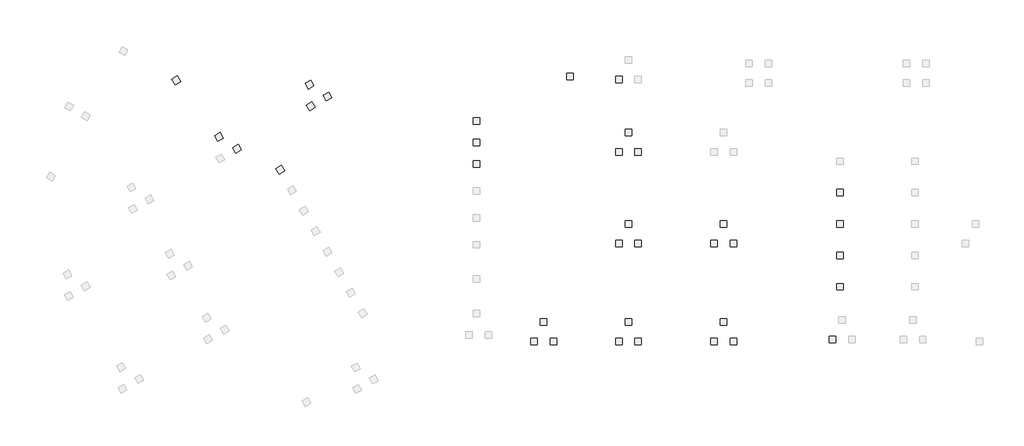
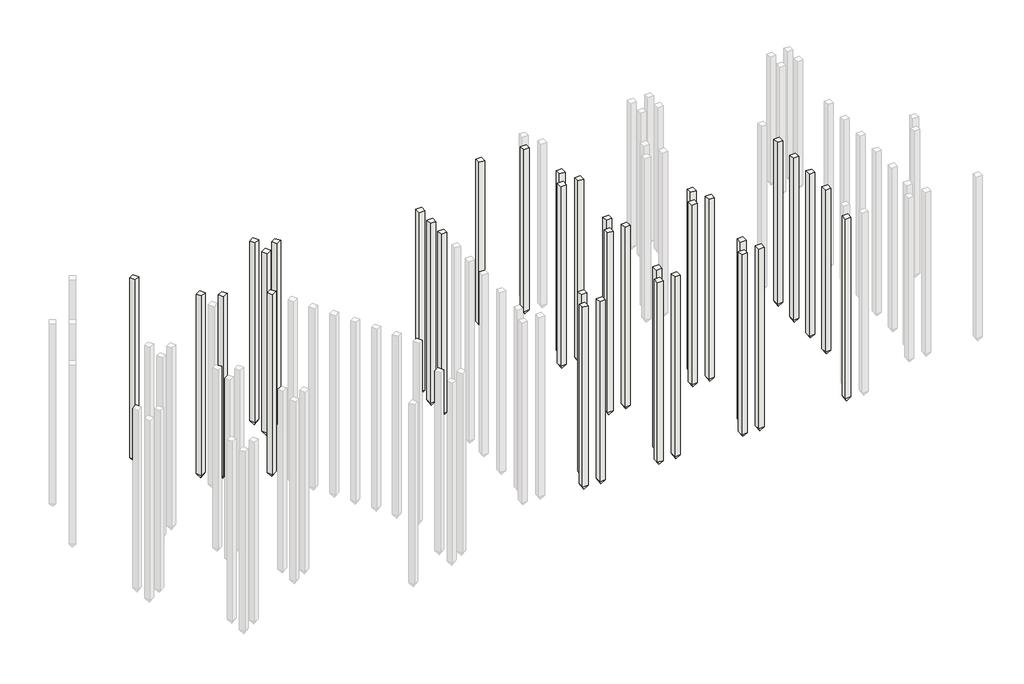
# One storey, part 4 of 6: 35 slabs.
"""IFC4 building model written with IfcOpenShell, lengths in millimetres."""

from ifc_helpers import new_model, si_unit, origin, place, context, project, spatial, faceted_brep, element, save

model = new_model("IFC4")

# Units and contexts
model_context = context("Model", 3, world=origin())
ifc_project = project(units=[si_unit("LENGTHUNIT", "METRE", prefix="MILLI")], contexts=[model_context])

# Site, building, storey
site = spatial("IfcSite", under=ifc_project)
building = spatial("IfcBuilding", under=site)
storey = spatial("IfcBuildingStorey", under=building, Name="КЖм.-1.150 (Верх свай 1)", Elevation=-1150.0)

# Slabs
placement = place(None, origin())
element("IfcSlab", 1, ObjectType="Бетонная свая прямоугольного сечения : C100.30-9", at=placement, inside=storey, context=model_context, shape_type="Brep", body=[
    faceted_brep([(19918.9691379, 26017.7285345, -1150.0), (19659.1615168, 25867.7285345, -1150.0), (19809.1615168, 25607.9209134, -1150.0), (20068.9691379, 25757.9209134, -1150.0), (19918.9691379, 26017.7285345, -1200.0), (19918.9691379, 26017.7285345, -1300.0), (19918.9691379, 26017.7285345, -11150.0), (19659.1615168, 25867.7285345, -11150.0), (19659.1615168, 25867.7285345, -1300.0), (19659.1615168, 25867.7285345, -1200.0), (19809.1615168, 25607.9209134, -11150.0), (19809.1615168, 25607.9209134, -1300.0), (19809.1615168, 25607.9209134, -1200.0), (20068.9691379, 25757.9209134, -11150.0), (20068.9691379, 25757.9209134, -1300.0), (20068.9691379, 25757.9209134, -1200.0), (19864.2411535, 25813.3653065, -11400.0), (19864.6411535, 25812.6724862, -11400.0), (19863.9483332, 25812.2724862, -11400.0), (19863.5483332, 25812.9653065, -11400.0)], [[[0, 1, 2, 3]], [[1, 0, 4, 5, 6, 7, 8, 9]], [[2, 1, 9, 8, 7, 10, 11, 12]], [[3, 2, 12, 11, 10, 13, 14, 15]], [[0, 3, 15, 14, 13, 6, 5, 4]], [[16, 17, 18, 19]], [[17, 16, 6, 13]], [[18, 17, 13, 10]], [[19, 18, 10, 7]], [[16, 19, 7, 6]]]),
])
element("IfcSlab", 2, ObjectType="Бетонная свая прямоугольного сечения : C100.30-9", at=placement, inside=storey, context=model_context, shape_type="Brep", body=[
    faceted_brep([(19079.2108659, 26572.0804491, -1150.0), (18819.4032447, 26422.0804491, -1150.0), (18969.4032447, 26162.272828, -1150.0), (19229.2108659, 26312.272828, -1150.0), (19079.2108659, 26572.0804491, -1200.0), (19079.2108659, 26572.0804491, -1300.0), (19079.2108659, 26572.0804491, -11150.0), (18819.4032447, 26422.0804491, -11150.0), (18819.4032447, 26422.0804491, -1300.0), (18819.4032447, 26422.0804491, -1200.0), (18969.4032447, 26162.272828, -11150.0), (18969.4032447, 26162.272828, -1300.0), (18969.4032447, 26162.272828, -1200.0), (19229.2108659, 26312.272828, -11150.0), (19229.2108659, 26312.272828, -1300.0), (19229.2108659, 26312.272828, -1200.0), (19024.4828815, 26367.7172211, -11400.0), (19024.8828815, 26367.0244007, -11400.0), (19024.1900612, 26366.6244007, -11400.0), (19023.7900612, 26367.3172211, -11400.0)], [[[0, 1, 2, 3]], [[1, 0, 4, 5, 6, 7, 8, 9]], [[2, 1, 9, 8, 7, 10, 11, 12]], [[3, 2, 12, 11, 10, 13, 14, 15]], [[0, 3, 15, 14, 13, 6, 5, 4]], [[16, 17, 18, 19]], [[17, 16, 6, 13]], [[18, 17, 13, 10]], [[19, 18, 10, 7]], [[16, 19, 7, 6]]]),
])
element("IfcSlab", 3, ObjectType="Бетонная свая прямоугольного сечения : C100.30-9", at=placement, inside=storey, context=model_context, shape_type="Brep", body=[
    faceted_brep([(23347.9871986, 27997.8741288, -1150.0), (23088.1795775, 27847.8741288, -1150.0), (23238.1795775, 27588.0665077, -1150.0), (23497.9871986, 27738.0665077, -1150.0), (23347.9871986, 27997.8741288, -1200.0), (23347.9871986, 27997.8741288, -1300.0), (23347.9871986, 27997.8741288, -11150.0), (23088.1795775, 27847.8741288, -11150.0), (23088.1795775, 27847.8741288, -1300.0), (23088.1795775, 27847.8741288, -1200.0), (23238.1795775, 27588.0665077, -11150.0), (23238.1795775, 27588.0665077, -1300.0), (23238.1795775, 27588.0665077, -1200.0), (23497.9871986, 27738.0665077, -11150.0), (23497.9871986, 27738.0665077, -1300.0), (23497.9871986, 27738.0665077, -1200.0), (23293.2592142, 27793.5109008, -11400.0), (23293.6592142, 27792.8180805, -11400.0), (23292.9663939, 27792.4180805, -11400.0), (23292.5663939, 27793.1109008, -11400.0)], [[[0, 1, 2, 3]], [[1, 0, 4, 5, 6, 7, 8, 9]], [[2, 1, 9, 8, 7, 10, 11, 12]], [[3, 2, 12, 11, 10, 13, 14, 15]], [[0, 3, 15, 14, 13, 6, 5, 4]], [[16, 17, 18, 19]], [[17, 16, 6, 13]], [[18, 17, 13, 10]], [[19, 18, 10, 7]], [[16, 19, 7, 6]]]),
])
element("IfcSlab", 4, ObjectType="Бетонная свая прямоугольного сечения : C100.30-9", at=placement, inside=storey, context=model_context, shape_type="Brep", body=[
    faceted_brep([(24127.3720384, 28447.9399812, -1150.0), (23867.5644173, 28297.9399812, -1150.0), (24017.5644173, 28038.1323601, -1150.0), (24277.3720384, 28188.1323601, -1150.0), (24127.3720384, 28447.9399812, -1200.0), (24127.3720384, 28447.9399812, -1300.0), (24127.3720384, 28447.9399812, -11150.0), (23867.5644173, 28297.9399812, -11150.0), (23867.5644173, 28297.9399812, -1300.0), (23867.5644173, 28297.9399812, -1200.0), (24017.5644173, 28038.1323601, -11150.0), (24017.5644173, 28038.1323601, -1300.0), (24017.5644173, 28038.1323601, -1200.0), (24277.3720384, 28188.1323601, -11150.0), (24277.3720384, 28188.1323601, -1300.0), (24277.3720384, 28188.1323601, -1200.0), (24072.6440541, 28243.5767532, -11400.0), (24073.0440541, 28242.8839329, -11400.0), (24072.3512337, 28242.4839329, -11400.0), (24071.9512337, 28243.1767532, -11400.0)], [[[0, 1, 2, 3]], [[1, 0, 4, 5, 6, 7, 8, 9]], [[2, 1, 9, 8, 7, 10, 11, 12]], [[3, 2, 12, 11, 10, 13, 14, 15]], [[0, 3, 15, 14, 13, 6, 5, 4]], [[16, 17, 18, 19]], [[17, 16, 6, 13]], [[18, 17, 13, 10]], [[19, 18, 10, 7]], [[16, 19, 7, 6]]]),
])
element("IfcSlab", 5, ObjectType="Бетонная свая прямоугольного сечения : C100.30-9", at=placement, inside=storey, context=model_context, shape_type="Brep", body=[
    faceted_brep([(23287.6137664, 29002.2918958, -1150.0), (23027.8061452, 28852.2918958, -1150.0), (23177.8061452, 28592.4842746, -1150.0), (23437.6137664, 28742.4842746, -1150.0), (23287.6137664, 29002.2918958, -1200.0), (23287.6137664, 29002.2918958, -1300.0), (23287.6137664, 29002.2918958, -11150.0), (23027.8061452, 28852.2918958, -11150.0), (23027.8061452, 28852.2918958, -1300.0), (23027.8061452, 28852.2918958, -1200.0), (23177.8061452, 28592.4842746, -11150.0), (23177.8061452, 28592.4842746, -1300.0), (23177.8061452, 28592.4842746, -1200.0), (23437.6137664, 28742.4842746, -11150.0), (23437.6137664, 28742.4842746, -1300.0), (23437.6137664, 28742.4842746, -1200.0), (23232.885782, 28797.9286677, -11400.0), (23233.285782, 28797.2358474, -11400.0), (23232.5929617, 28796.8358474, -11400.0), (23232.1929617, 28797.5286677, -11400.0)], [[[0, 1, 2, 3]], [[1, 0, 4, 5, 6, 7, 8, 9]], [[2, 1, 9, 8, 7, 10, 11, 12]], [[3, 2, 12, 11, 10, 13, 14, 15]], [[0, 3, 15, 14, 13, 6, 5, 4]], [[16, 17, 18, 19]], [[17, 16, 6, 13]], [[18, 17, 13, 10]], [[19, 18, 10, 7]], [[16, 19, 7, 6]]]),
])
element("IfcSlab", 6, ObjectType="Бетонная свая прямоугольного сечения : C100.30-9", at=placement, inside=storey, context=model_context, shape_type="Brep", body=[
    faceted_brep([(21926.6133364, 25041.2300496, -1150.0), (21666.8057153, 24891.2300496, -1150.0), (21816.8057153, 24631.4224284, -1150.0), (22076.6133364, 24781.4224284, -1150.0), (21926.6133364, 25041.2300496, -1200.0), (21926.6133364, 25041.2300496, -1300.0), (21926.6133364, 25041.2300496, -11150.0), (21666.8057153, 24891.2300496, -11150.0), (21666.8057153, 24891.2300496, -1300.0), (21666.8057153, 24891.2300496, -1200.0), (21816.8057153, 24631.4224284, -11150.0), (21816.8057153, 24631.4224284, -1300.0), (21816.8057153, 24631.4224284, -1200.0), (22076.6133364, 24781.4224284, -11150.0), (22076.6133364, 24781.4224284, -1300.0), (22076.6133364, 24781.4224284, -1200.0), (21871.8853521, 24836.8668215, -11400.0), (21872.2853521, 24836.1740012, -11400.0), (21871.5925318, 24835.7740012, -11400.0), (21871.1925318, 24836.4668215, -11400.0)], [[[0, 1, 2, 3]], [[1, 0, 4, 5, 6, 7, 8, 9]], [[2, 1, 9, 8, 7, 10, 11, 12]], [[3, 2, 12, 11, 10, 13, 14, 15]], [[0, 3, 15, 14, 13, 6, 5, 4]], [[16, 17, 18, 19]], [[17, 16, 6, 13]], [[18, 17, 13, 10]], [[19, 18, 10, 7]], [[16, 19, 7, 6]]]),
])
element("IfcSlab", 7, ObjectType="Бетонная свая прямоугольного сечения : C100.30-9", at=placement, inside=storey, context=model_context, shape_type="Brep", body=[
    faceted_brep([(31158.0495692, 27249.4354275, -1150.0), (30858.0495692, 27249.4354275, -1150.0), (30858.0495692, 26949.4354275, -1150.0), (31158.0495692, 26949.4354275, -1150.0), (31158.0495692, 27249.4354275, -1200.0), (31158.0495692, 27249.4354275, -1300.0), (31158.0495692, 27249.4354275, -11150.0), (30858.0495692, 27249.4354275, -11150.0), (30858.0495692, 27249.4354275, -1300.0), (30858.0495692, 27249.4354275, -1200.0), (30858.0495692, 26949.4354275, -11150.0), (30858.0495692, 26949.4354275, -1300.0), (30858.0495692, 26949.4354275, -1200.0), (31158.0495692, 26949.4354275, -11150.0), (31158.0495692, 26949.4354275, -1300.0), (31158.0495692, 26949.4354275, -1200.0), (31008.4721304, 27099.8156726, -11400.0), (31008.4721304, 27099.0156726, -11400.0), (31007.6721304, 27099.0156726, -11400.0), (31007.6721304, 27099.8156726, -11400.0)], [[[0, 1, 2, 3]], [[1, 0, 4, 5, 6, 7, 8, 9]], [[2, 1, 9, 8, 7, 10, 11, 12]], [[3, 2, 12, 11, 10, 13, 14, 15]], [[0, 3, 15, 14, 13, 6, 5, 4]], [[16, 17, 18, 19]], [[17, 16, 6, 13]], [[18, 17, 13, 10]], [[19, 18, 10, 7]], [[16, 19, 7, 6]]]),
])
element("IfcSlab", 8, ObjectType="Бетонная свая прямоугольного сечения : C100.30-9", at=placement, inside=storey, context=model_context, shape_type="Brep", body=[
    faceted_brep([(37773.0495055, 25814.4704078, -1150.0), (37473.0495055, 25814.4704078, -1150.0), (37473.0495055, 25514.4704078, -1150.0), (37773.0495055, 25514.4704078, -1150.0), (37773.0495055, 25814.4704078, -1200.0), (37773.0495055, 25814.4704078, -1300.0), (37773.0495055, 25814.4704078, -11150.0), (37473.0495055, 25814.4704078, -11150.0), (37473.0495055, 25814.4704078, -1300.0), (37473.0495055, 25814.4704078, -1200.0), (37473.0495055, 25514.4704078, -11150.0), (37473.0495055, 25514.4704078, -1300.0), (37473.0495055, 25514.4704078, -1200.0), (37773.0495055, 25514.4704078, -11150.0), (37773.0495055, 25514.4704078, -1300.0), (37773.0495055, 25514.4704078, -1200.0), (37623.4720668, 25664.8506529, -11400.0), (37623.4720668, 25664.0506529, -11400.0), (37622.6720668, 25664.0506529, -11400.0), (37622.6720668, 25664.8506529, -11400.0)], [[[0, 1, 2, 3]], [[1, 0, 4, 5, 6, 7, 8, 9]], [[2, 1, 9, 8, 7, 10, 11, 12]], [[3, 2, 12, 11, 10, 13, 14, 15]], [[0, 3, 15, 14, 13, 6, 5, 4]], [[16, 17, 18, 19]], [[17, 16, 6, 13]], [[18, 17, 13, 10]], [[19, 18, 10, 7]], [[16, 19, 7, 6]]]),
])
element("IfcSlab", 9, ObjectType="Бетонная свая прямоугольного сечения : C100.30-9", at=placement, inside=storey, context=model_context, shape_type="Brep", body=[
    faceted_brep([(38223.0754774, 26714.4704051, -1150.0), (37923.0754774, 26714.4704051, -1150.0), (37923.0754774, 26414.4704051, -1150.0), (38223.0754774, 26414.4704051, -1150.0), (38223.0754774, 26714.4704051, -1200.0), (38223.0754774, 26714.4704051, -1300.0), (38223.0754774, 26714.4704051, -11150.0), (37923.0754774, 26714.4704051, -11150.0), (37923.0754774, 26714.4704051, -1300.0), (37923.0754774, 26714.4704051, -1200.0), (37923.0754774, 26414.4704051, -11150.0), (37923.0754774, 26414.4704051, -1300.0), (37923.0754774, 26414.4704051, -1200.0), (38223.0754774, 26414.4704051, -11150.0), (38223.0754774, 26414.4704051, -1300.0), (38223.0754774, 26414.4704051, -1200.0), (38073.4980387, 26564.8506502, -11400.0), (38073.4980387, 26564.0506502, -11400.0), (38072.6980387, 26564.0506502, -11400.0), (38072.6980387, 26564.8506502, -11400.0)], [[[0, 1, 2, 3]], [[1, 0, 4, 5, 6, 7, 8, 9]], [[2, 1, 9, 8, 7, 10, 11, 12]], [[3, 2, 12, 11, 10, 13, 14, 15]], [[0, 3, 15, 14, 13, 6, 5, 4]], [[16, 17, 18, 19]], [[17, 16, 6, 13]], [[18, 17, 13, 10]], [[19, 18, 10, 7]], [[16, 19, 7, 6]]]),
])
element("IfcSlab", 10, ObjectType="Бетонная свая прямоугольного сечения : C100.30-9", at=placement, inside=storey, context=model_context, shape_type="Brep", body=[
    faceted_brep([(38373.0012207, 25814.4703164, -1150.0), (38373.0011292, 25514.4703164, -1150.0), (38673.0011292, 25514.4702249, -1150.0), (38673.0012207, 25814.4702249, -1150.0), (38673.0012207, 25814.4702249, -1200.0), (38673.0012207, 25814.4702249, -1300.0), (38673.0012207, 25814.4702249, -11150.0), (38373.0012207, 25814.4703164, -11150.0), (38373.0012207, 25814.4703164, -1300.0), (38373.0012207, 25814.4703164, -1200.0), (38673.0011292, 25514.4702249, -1200.0), (38673.0011292, 25514.4702249, -1300.0), (38673.0011292, 25514.4702249, -11150.0), (38373.0011292, 25514.4703164, -1200.0), (38373.0011292, 25514.4703164, -1300.0), (38373.0011292, 25514.4703164, -11150.0), (38522.5786138, 25664.8505159, -11400.0), (38523.3786138, 25664.8505156, -11400.0), (38523.3786136, 25664.0505156, -11400.0), (38522.5786136, 25664.0505159, -11400.0)], [[[0, 1, 2, 3]], [[3, 4, 5, 6, 7, 8, 9, 0]], [[2, 10, 11, 12, 6, 5, 4, 3]], [[1, 13, 14, 15, 12, 11, 10, 2]], [[0, 9, 8, 7, 15, 14, 13, 1]], [[16, 17, 18, 19]], [[19, 15, 7, 16]], [[18, 12, 15, 19]], [[17, 6, 12, 18]], [[16, 7, 6, 17]]]),
])
element("IfcSlab", 11, ObjectType="Бетонная свая прямоугольного сечения : C100.30-9", at=placement, inside=storey, context=model_context, shape_type="Brep", body=[
    faceted_brep([(37773.0495055, 21559.4703544, -1150.0), (37473.0495055, 21559.4703544, -1150.0), (37473.0495055, 21259.4703544, -1150.0), (37773.0495055, 21259.4703544, -1150.0), (37773.0495055, 21559.4703544, -1200.0), (37773.0495055, 21559.4703544, -1300.0), (37773.0495055, 21559.4703544, -11150.0), (37473.0495055, 21559.4703544, -11150.0), (37473.0495055, 21559.4703544, -1300.0), (37473.0495055, 21559.4703544, -1200.0), (37473.0495055, 21259.4703544, -11150.0), (37473.0495055, 21259.4703544, -1300.0), (37473.0495055, 21259.4703544, -1200.0), (37773.0495055, 21259.4703544, -11150.0), (37773.0495055, 21259.4703544, -1300.0), (37773.0495055, 21259.4703544, -1200.0), (37623.4720668, 21409.8505995, -11400.0), (37623.4720668, 21409.0505995, -11400.0), (37622.6720668, 21409.0505995, -11400.0), (37622.6720668, 21409.8505995, -11400.0)], [[[0, 1, 2, 3]], [[1, 0, 4, 5, 6, 7, 8, 9]], [[2, 1, 9, 8, 7, 10, 11, 12]], [[3, 2, 12, 11, 10, 13, 14, 15]], [[0, 3, 15, 14, 13, 6, 5, 4]], [[16, 17, 18, 19]], [[17, 16, 6, 13]], [[18, 17, 13, 10]], [[19, 18, 10, 7]], [[16, 19, 7, 6]]]),
])
element("IfcSlab", 12, ObjectType="Бетонная свая прямоугольного сечения : C100.30-9", at=placement, inside=storey, context=model_context, shape_type="Brep", body=[
    faceted_brep([(38223.0754774, 22459.4703517, -1150.0), (37923.0754774, 22459.4703517, -1150.0), (37923.0754774, 22159.4703517, -1150.0), (38223.0754774, 22159.4703517, -1150.0), (38223.0754774, 22459.4703517, -1200.0), (38223.0754774, 22459.4703517, -1300.0), (38223.0754774, 22459.4703517, -11150.0), (37923.0754774, 22459.4703517, -11150.0), (37923.0754774, 22459.4703517, -1300.0), (37923.0754774, 22459.4703517, -1200.0), (37923.0754774, 22159.4703517, -11150.0), (37923.0754774, 22159.4703517, -1300.0), (37923.0754774, 22159.4703517, -1200.0), (38223.0754774, 22159.4703517, -11150.0), (38223.0754774, 22159.4703517, -1300.0), (38223.0754774, 22159.4703517, -1200.0), (38073.4980387, 22309.8505968, -11400.0), (38073.4980387, 22309.0505968, -11400.0), (38072.6980387, 22309.0505968, -11400.0), (38072.6980387, 22309.8505968, -11400.0)], [[[0, 1, 2, 3]], [[1, 0, 4, 5, 6, 7, 8, 9]], [[2, 1, 9, 8, 7, 10, 11, 12]], [[3, 2, 12, 11, 10, 13, 14, 15]], [[0, 3, 15, 14, 13, 6, 5, 4]], [[16, 17, 18, 19]], [[17, 16, 6, 13]], [[18, 17, 13, 10]], [[19, 18, 10, 7]], [[16, 19, 7, 6]]]),
])
element("IfcSlab", 13, ObjectType="Бетонная свая прямоугольного сечения : C100.30-9", at=placement, inside=storey, context=model_context, shape_type="Brep", body=[
    faceted_brep([(38373.0012207, 21559.4702629, -1150.0), (38373.0011292, 21259.4702629, -1150.0), (38673.0011292, 21259.4701715, -1150.0), (38673.0012207, 21559.4701715, -1150.0), (38673.0012207, 21559.4701715, -1200.0), (38673.0012207, 21559.4701715, -1300.0), (38673.0012207, 21559.4701715, -11150.0), (38373.0012207, 21559.4702629, -11150.0), (38373.0012207, 21559.4702629, -1300.0), (38373.0012207, 21559.4702629, -1200.0), (38673.0011292, 21259.4701715, -1200.0), (38673.0011292, 21259.4701715, -1300.0), (38673.0011292, 21259.4701715, -11150.0), (38373.0011292, 21259.4702629, -1200.0), (38373.0011292, 21259.4702629, -1300.0), (38373.0011292, 21259.4702629, -11150.0), (38522.5786138, 21409.8504624, -11400.0), (38523.3786138, 21409.8504622, -11400.0), (38523.3786136, 21409.0504622, -11400.0), (38522.5786136, 21409.0504624, -11400.0)], [[[0, 1, 2, 3]], [[3, 4, 5, 6, 7, 8, 9, 0]], [[2, 10, 11, 12, 6, 5, 4, 3]], [[1, 13, 14, 15, 12, 11, 10, 2]], [[0, 9, 8, 7, 15, 14, 13, 1]], [[16, 17, 18, 19]], [[19, 15, 7, 16]], [[18, 12, 15, 19]], [[17, 6, 12, 18]], [[16, 7, 6, 17]]]),
])
element("IfcSlab", 14, ObjectType="Бетонная свая прямоугольного сечения : C100.30-9", at=placement, inside=storey, context=model_context, shape_type="Brep", body=[
    faceted_brep([(42203.0498996, 21559.4703544, -1150.0), (41903.0498996, 21559.4703544, -1150.0), (41903.0498996, 21259.4703544, -1150.0), (42203.0498996, 21259.4703544, -1150.0), (42203.0498996, 21559.4703544, -1200.0), (42203.0498996, 21559.4703544, -1300.0), (42203.0498996, 21559.4703544, -11150.0), (41903.0498996, 21559.4703544, -11150.0), (41903.0498996, 21559.4703544, -1300.0), (41903.0498996, 21559.4703544, -1200.0), (41903.0498996, 21259.4703544, -11150.0), (41903.0498996, 21259.4703544, -1300.0), (41903.0498996, 21259.4703544, -1200.0), (42203.0498996, 21259.4703544, -11150.0), (42203.0498996, 21259.4703544, -1300.0), (42203.0498996, 21259.4703544, -1200.0), (42053.4724609, 21409.8505995, -11400.0), (42053.4724609, 21409.0505995, -11400.0), (42052.6724609, 21409.0505995, -11400.0), (42052.6724609, 21409.8505995, -11400.0)], [[[0, 1, 2, 3]], [[1, 0, 4, 5, 6, 7, 8, 9]], [[2, 1, 9, 8, 7, 10, 11, 12]], [[3, 2, 12, 11, 10, 13, 14, 15]], [[0, 3, 15, 14, 13, 6, 5, 4]], [[16, 17, 18, 19]], [[17, 16, 6, 13]], [[18, 17, 13, 10]], [[19, 18, 10, 7]], [[16, 19, 7, 6]]]),
])
element("IfcSlab", 15, ObjectType="Бетонная свая прямоугольного сечения : C100.30-9", at=placement, inside=storey, context=model_context, shape_type="Brep", body=[
    faceted_brep([(42653.0758715, 22459.4703517, -1150.0), (42353.0758715, 22459.4703517, -1150.0), (42353.0758715, 22159.4703517, -1150.0), (42653.0758715, 22159.4703517, -1150.0), (42653.0758715, 22459.4703517, -1200.0), (42653.0758715, 22459.4703517, -1300.0), (42653.0758715, 22459.4703517, -11150.0), (42353.0758715, 22459.4703517, -11150.0), (42353.0758715, 22459.4703517, -1300.0), (42353.0758715, 22459.4703517, -1200.0), (42353.0758715, 22159.4703517, -11150.0), (42353.0758715, 22159.4703517, -1300.0), (42353.0758715, 22159.4703517, -1200.0), (42653.0758715, 22159.4703517, -11150.0), (42653.0758715, 22159.4703517, -1300.0), (42653.0758715, 22159.4703517, -1200.0), (42503.4984328, 22309.8505968, -11400.0), (42503.4984328, 22309.0505968, -11400.0), (42502.6984328, 22309.0505968, -11400.0), (42502.6984328, 22309.8505968, -11400.0)], [[[0, 1, 2, 3]], [[1, 0, 4, 5, 6, 7, 8, 9]], [[2, 1, 9, 8, 7, 10, 11, 12]], [[3, 2, 12, 11, 10, 13, 14, 15]], [[0, 3, 15, 14, 13, 6, 5, 4]], [[16, 17, 18, 19]], [[17, 16, 6, 13]], [[18, 17, 13, 10]], [[19, 18, 10, 7]], [[16, 19, 7, 6]]]),
])
element("IfcSlab", 16, ObjectType="Бетонная свая прямоугольного сечения : C100.30-9", at=placement, inside=storey, context=model_context, shape_type="Brep", body=[
    faceted_brep([(42803.0016148, 21559.4702629, -1150.0), (42803.0015233, 21259.4702629, -1150.0), (43103.0015233, 21259.4701715, -1150.0), (43103.0016148, 21559.4701715, -1150.0), (43103.0016148, 21559.4701715, -1200.0), (43103.0016148, 21559.4701715, -1300.0), (43103.0016148, 21559.4701715, -11150.0), (42803.0016148, 21559.4702629, -11150.0), (42803.0016148, 21559.4702629, -1300.0), (42803.0016148, 21559.4702629, -1200.0), (43103.0015233, 21259.4701715, -1200.0), (43103.0015233, 21259.4701715, -1300.0), (43103.0015233, 21259.4701715, -11150.0), (42803.0015233, 21259.4702629, -1200.0), (42803.0015233, 21259.4702629, -1300.0), (42803.0015233, 21259.4702629, -11150.0), (42952.5790079, 21409.8504624, -11400.0), (42953.3790079, 21409.8504622, -11400.0), (42953.3790077, 21409.0504622, -11400.0), (42952.5790077, 21409.0504624, -11400.0)], [[[0, 1, 2, 3]], [[3, 4, 5, 6, 7, 8, 9, 0]], [[2, 10, 11, 12, 6, 5, 4, 3]], [[1, 13, 14, 15, 12, 11, 10, 2]], [[0, 9, 8, 7, 15, 14, 13, 1]], [[16, 17, 18, 19]], [[19, 15, 7, 16]], [[18, 12, 15, 19]], [[17, 6, 12, 18]], [[16, 7, 6, 17]]]),
])
element("IfcSlab", 17, ObjectType="Бетонная свая прямоугольного сечения : C100.30-9", at=placement, inside=storey, context=model_context, shape_type="Brep", body=[
    faceted_brep([(47713.0501424, 17099.4703544, -1150.0), (47413.0501424, 17099.4703544, -1150.0), (47413.0501424, 16799.4703544, -1150.0), (47713.0501424, 16799.4703544, -1150.0), (47713.0501424, 17099.4703544, -1200.0), (47713.0501424, 17099.4703544, -1300.0), (47713.0501424, 17099.4703544, -11150.0), (47413.0501424, 17099.4703544, -11150.0), (47413.0501424, 17099.4703544, -1300.0), (47413.0501424, 17099.4703544, -1200.0), (47413.0501424, 16799.4703544, -11150.0), (47413.0501424, 16799.4703544, -1300.0), (47413.0501424, 16799.4703544, -1200.0), (47713.0501424, 16799.4703544, -11150.0), (47713.0501424, 16799.4703544, -1300.0), (47713.0501424, 16799.4703544, -1200.0), (47563.4727037, 16949.8505995, -11400.0), (47563.4727037, 16949.0505995, -11400.0), (47562.6727037, 16949.0505995, -11400.0), (47562.6727037, 16949.8505995, -11400.0)], [[[0, 1, 2, 3]], [[1, 0, 4, 5, 6, 7, 8, 9]], [[2, 1, 9, 8, 7, 10, 11, 12]], [[3, 2, 12, 11, 10, 13, 14, 15]], [[0, 3, 15, 14, 13, 6, 5, 4]], [[16, 17, 18, 19]], [[17, 16, 6, 13]], [[18, 17, 13, 10]], [[19, 18, 10, 7]], [[16, 19, 7, 6]]]),
])
element("IfcSlab", 18, ObjectType="Бетонная свая прямоугольного сечения : C100.30-9", at=placement, inside=storey, context=model_context, shape_type="Brep", body=[
    faceted_brep([(42203.0498996, 16999.4703544, -1150.0), (41903.0498996, 16999.4703544, -1150.0), (41903.0498996, 16699.4703544, -1150.0), (42203.0498996, 16699.4703544, -1150.0), (42203.0498996, 16999.4703544, -1200.0), (42203.0498996, 16999.4703544, -1300.0), (42203.0498996, 16999.4703544, -11150.0), (41903.0498996, 16999.4703544, -11150.0), (41903.0498996, 16999.4703544, -1300.0), (41903.0498996, 16999.4703544, -1200.0), (41903.0498996, 16699.4703544, -11150.0), (41903.0498996, 16699.4703544, -1300.0), (41903.0498996, 16699.4703544, -1200.0), (42203.0498996, 16699.4703544, -11150.0), (42203.0498996, 16699.4703544, -1300.0), (42203.0498996, 16699.4703544, -1200.0), (42053.4724609, 16849.8505995, -11400.0), (42053.4724609, 16849.0505995, -11400.0), (42052.6724609, 16849.0505995, -11400.0), (42052.6724609, 16849.8505995, -11400.0)], [[[0, 1, 2, 3]], [[1, 0, 4, 5, 6, 7, 8, 9]], [[2, 1, 9, 8, 7, 10, 11, 12]], [[3, 2, 12, 11, 10, 13, 14, 15]], [[0, 3, 15, 14, 13, 6, 5, 4]], [[16, 17, 18, 19]], [[17, 16, 6, 13]], [[18, 17, 13, 10]], [[19, 18, 10, 7]], [[16, 19, 7, 6]]]),
])
element("IfcSlab", 19, ObjectType="Бетонная свая прямоугольного сечения : C100.30-9", at=placement, inside=storey, context=model_context, shape_type="Brep", body=[
    faceted_brep([(42653.0758715, 17899.4703517, -1150.0), (42353.0758715, 17899.4703517, -1150.0), (42353.0758715, 17599.4703517, -1150.0), (42653.0758715, 17599.4703517, -1150.0), (42653.0758715, 17899.4703517, -1200.0), (42653.0758715, 17899.4703517, -1300.0), (42653.0758715, 17899.4703517, -11150.0), (42353.0758715, 17899.4703517, -11150.0), (42353.0758715, 17899.4703517, -1300.0), (42353.0758715, 17899.4703517, -1200.0), (42353.0758715, 17599.4703517, -11150.0), (42353.0758715, 17599.4703517, -1300.0), (42353.0758715, 17599.4703517, -1200.0), (42653.0758715, 17599.4703517, -11150.0), (42653.0758715, 17599.4703517, -1300.0), (42653.0758715, 17599.4703517, -1200.0), (42503.4984328, 17749.8505968, -11400.0), (42503.4984328, 17749.0505968, -11400.0), (42502.6984328, 17749.0505968, -11400.0), (42502.6984328, 17749.8505968, -11400.0)], [[[0, 1, 2, 3]], [[1, 0, 4, 5, 6, 7, 8, 9]], [[2, 1, 9, 8, 7, 10, 11, 12]], [[3, 2, 12, 11, 10, 13, 14, 15]], [[0, 3, 15, 14, 13, 6, 5, 4]], [[16, 17, 18, 19]], [[17, 16, 6, 13]], [[18, 17, 13, 10]], [[19, 18, 10, 7]], [[16, 19, 7, 6]]]),
])
element("IfcSlab", 20, ObjectType="Бетонная свая прямоугольного сечения : C100.30-9", at=placement, inside=storey, context=model_context, shape_type="Brep", body=[
    faceted_brep([(42803.0016148, 16999.4702629, -1150.0), (42803.0015233, 16699.4702629, -1150.0), (43103.0015233, 16699.4701715, -1150.0), (43103.0016148, 16999.4701715, -1150.0), (43103.0016148, 16999.4701715, -1200.0), (43103.0016148, 16999.4701715, -1300.0), (43103.0016148, 16999.4701715, -11150.0), (42803.0016148, 16999.4702629, -11150.0), (42803.0016148, 16999.4702629, -1300.0), (42803.0016148, 16999.4702629, -1200.0), (43103.0015233, 16699.4701715, -1200.0), (43103.0015233, 16699.4701715, -1300.0), (43103.0015233, 16699.4701715, -11150.0), (42803.0015233, 16699.4702629, -1200.0), (42803.0015233, 16699.4702629, -1300.0), (42803.0015233, 16699.4702629, -11150.0), (42952.5790079, 16849.8504624, -11400.0), (42953.3790079, 16849.8504622, -11400.0), (42953.3790077, 16849.0504622, -11400.0), (42952.5790077, 16849.0504624, -11400.0)], [[[0, 1, 2, 3]], [[3, 4, 5, 6, 7, 8, 9, 0]], [[2, 10, 11, 12, 6, 5, 4, 3]], [[1, 13, 14, 15, 12, 11, 10, 2]], [[0, 9, 8, 7, 15, 14, 13, 1]], [[16, 17, 18, 19]], [[19, 15, 7, 16]], [[18, 12, 15, 19]], [[17, 6, 12, 18]], [[16, 7, 6, 17]]]),
])
element("IfcSlab", 21, ObjectType="Бетонная свая прямоугольного сечения : C100.30-9", at=placement, inside=storey, context=model_context, shape_type="Brep", body=[
    faceted_brep([(37773.0495055, 16999.4703544, -1150.0), (37473.0495055, 16999.4703544, -1150.0), (37473.0495055, 16699.4703544, -1150.0), (37773.0495055, 16699.4703544, -1150.0), (37773.0495055, 16999.4703544, -1200.0), (37773.0495055, 16999.4703544, -1300.0), (37773.0495055, 16999.4703544, -11150.0), (37473.0495055, 16999.4703544, -11150.0), (37473.0495055, 16999.4703544, -1300.0), (37473.0495055, 16999.4703544, -1200.0), (37473.0495055, 16699.4703544, -11150.0), (37473.0495055, 16699.4703544, -1300.0), (37473.0495055, 16699.4703544, -1200.0), (37773.0495055, 16699.4703544, -11150.0), (37773.0495055, 16699.4703544, -1300.0), (37773.0495055, 16699.4703544, -1200.0), (37623.4720668, 16849.8505995, -11400.0), (37623.4720668, 16849.0505995, -11400.0), (37622.6720668, 16849.0505995, -11400.0), (37622.6720668, 16849.8505995, -11400.0)], [[[0, 1, 2, 3]], [[1, 0, 4, 5, 6, 7, 8, 9]], [[2, 1, 9, 8, 7, 10, 11, 12]], [[3, 2, 12, 11, 10, 13, 14, 15]], [[0, 3, 15, 14, 13, 6, 5, 4]], [[16, 17, 18, 19]], [[17, 16, 6, 13]], [[18, 17, 13, 10]], [[19, 18, 10, 7]], [[16, 19, 7, 6]]]),
])
element("IfcSlab", 22, ObjectType="Бетонная свая прямоугольного сечения : C100.30-9", at=placement, inside=storey, context=model_context, shape_type="Brep", body=[
    faceted_brep([(38223.0754774, 17899.4703517, -1150.0), (37923.0754774, 17899.4703517, -1150.0), (37923.0754774, 17599.4703517, -1150.0), (38223.0754774, 17599.4703517, -1150.0), (38223.0754774, 17899.4703517, -1200.0), (38223.0754774, 17899.4703517, -1300.0), (38223.0754774, 17899.4703517, -11150.0), (37923.0754774, 17899.4703517, -11150.0), (37923.0754774, 17899.4703517, -1300.0), (37923.0754774, 17899.4703517, -1200.0), (37923.0754774, 17599.4703517, -11150.0), (37923.0754774, 17599.4703517, -1300.0), (37923.0754774, 17599.4703517, -1200.0), (38223.0754774, 17599.4703517, -11150.0), (38223.0754774, 17599.4703517, -1300.0), (38223.0754774, 17599.4703517, -1200.0), (38073.4980387, 17749.8505968, -11400.0), (38073.4980387, 17749.0505968, -11400.0), (38072.6980387, 17749.0505968, -11400.0), (38072.6980387, 17749.8505968, -11400.0)], [[[0, 1, 2, 3]], [[1, 0, 4, 5, 6, 7, 8, 9]], [[2, 1, 9, 8, 7, 10, 11, 12]], [[3, 2, 12, 11, 10, 13, 14, 15]], [[0, 3, 15, 14, 13, 6, 5, 4]], [[16, 17, 18, 19]], [[17, 16, 6, 13]], [[18, 17, 13, 10]], [[19, 18, 10, 7]], [[16, 19, 7, 6]]]),
])
element("IfcSlab", 23, ObjectType="Бетонная свая прямоугольного сечения : C100.30-9", at=placement, inside=storey, context=model_context, shape_type="Brep", body=[
    faceted_brep([(38373.0012207, 16999.4702629, -1150.0), (38373.0011292, 16699.4702629, -1150.0), (38673.0011292, 16699.4701715, -1150.0), (38673.0012207, 16999.4701715, -1150.0), (38673.0012207, 16999.4701715, -1200.0), (38673.0012207, 16999.4701715, -1300.0), (38673.0012207, 16999.4701715, -11150.0), (38373.0012207, 16999.4702629, -11150.0), (38373.0012207, 16999.4702629, -1300.0), (38373.0012207, 16999.4702629, -1200.0), (38673.0011292, 16699.4701715, -1200.0), (38673.0011292, 16699.4701715, -1300.0), (38673.0011292, 16699.4701715, -11150.0), (38373.0011292, 16699.4702629, -1200.0), (38373.0011292, 16699.4702629, -1300.0), (38373.0011292, 16699.4702629, -11150.0), (38522.5786138, 16849.8504624, -11400.0), (38523.3786138, 16849.8504622, -11400.0), (38523.3786136, 16849.0504622, -11400.0), (38522.5786136, 16849.0504624, -11400.0)], [[[0, 1, 2, 3]], [[3, 4, 5, 6, 7, 8, 9, 0]], [[2, 10, 11, 12, 6, 5, 4, 3]], [[1, 13, 14, 15, 12, 11, 10, 2]], [[0, 9, 8, 7, 15, 14, 13, 1]], [[16, 17, 18, 19]], [[19, 15, 7, 16]], [[18, 12, 15, 19]], [[17, 6, 12, 18]], [[16, 7, 6, 17]]]),
])
element("IfcSlab", 24, ObjectType="Бетонная свая прямоугольного сечения : C100.30-9", at=placement, inside=storey, context=model_context, shape_type="Brep", body=[
    faceted_brep([(33828.1724148, 16999.5144057, -1150.0), (33528.1724148, 16999.5144057, -1150.0), (33528.1724148, 16699.5144057, -1150.0), (33828.1724148, 16699.5144057, -1150.0), (33828.1724148, 16999.5144057, -1200.0), (33828.1724148, 16999.5144057, -1300.0), (33828.1724148, 16999.5144057, -11150.0), (33528.1724148, 16999.5144057, -11150.0), (33528.1724148, 16999.5144057, -1300.0), (33528.1724148, 16999.5144057, -1200.0), (33528.1724148, 16699.5144057, -11150.0), (33528.1724148, 16699.5144057, -1300.0), (33528.1724148, 16699.5144057, -1200.0), (33828.1724148, 16699.5144057, -11150.0), (33828.1724148, 16699.5144057, -1300.0), (33828.1724148, 16699.5144057, -1200.0), (33678.594976, 16849.8946508, -11400.0), (33678.594976, 16849.0946508, -11400.0), (33677.794976, 16849.0946508, -11400.0), (33677.794976, 16849.8946508, -11400.0)], [[[0, 1, 2, 3]], [[1, 0, 4, 5, 6, 7, 8, 9]], [[2, 1, 9, 8, 7, 10, 11, 12]], [[3, 2, 12, 11, 10, 13, 14, 15]], [[0, 3, 15, 14, 13, 6, 5, 4]], [[16, 17, 18, 19]], [[17, 16, 6, 13]], [[18, 17, 13, 10]], [[19, 18, 10, 7]], [[16, 19, 7, 6]]]),
])
element("IfcSlab", 25, ObjectType="Бетонная свая прямоугольного сечения : C100.30-9", at=placement, inside=storey, context=model_context, shape_type="Brep", body=[
    faceted_brep([(34278.1983867, 17899.514403, -1150.0), (33978.1983867, 17899.514403, -1150.0), (33978.1983867, 17599.514403, -1150.0), (34278.1983867, 17599.514403, -1150.0), (34278.1983867, 17899.514403, -1200.0), (34278.1983867, 17899.514403, -1300.0), (34278.1983867, 17899.514403, -11150.0), (33978.1983867, 17899.514403, -11150.0), (33978.1983867, 17899.514403, -1300.0), (33978.1983867, 17899.514403, -1200.0), (33978.1983867, 17599.514403, -11150.0), (33978.1983867, 17599.514403, -1300.0), (33978.1983867, 17599.514403, -1200.0), (34278.1983867, 17599.514403, -11150.0), (34278.1983867, 17599.514403, -1300.0), (34278.1983867, 17599.514403, -1200.0), (34128.6209479, 17749.8946481, -11400.0), (34128.6209479, 17749.0946481, -11400.0), (34127.8209479, 17749.0946481, -11400.0), (34127.8209479, 17749.8946481, -11400.0)], [[[0, 1, 2, 3]], [[1, 0, 4, 5, 6, 7, 8, 9]], [[2, 1, 9, 8, 7, 10, 11, 12]], [[3, 2, 12, 11, 10, 13, 14, 15]], [[0, 3, 15, 14, 13, 6, 5, 4]], [[16, 17, 18, 19]], [[17, 16, 6, 13]], [[18, 17, 13, 10]], [[19, 18, 10, 7]], [[16, 19, 7, 6]]]),
])
element("IfcSlab", 26, ObjectType="Бетонная свая прямоугольного сечения : C100.30-9", at=placement, inside=storey, context=model_context, shape_type="Brep", body=[
    faceted_brep([(34428.1241299, 16999.5143142, -1150.0), (34428.1240385, 16699.5143142, -1150.0), (34728.1240385, 16699.5142227, -1150.0), (34728.1241299, 16999.5142227, -1150.0), (34728.1241299, 16999.5142227, -1200.0), (34728.1241299, 16999.5142227, -1300.0), (34728.1241299, 16999.5142227, -11150.0), (34428.1241299, 16999.5143142, -11150.0), (34428.1241299, 16999.5143142, -1300.0), (34428.1241299, 16999.5143142, -1200.0), (34728.1240385, 16699.5142227, -1200.0), (34728.1240385, 16699.5142227, -1300.0), (34728.1240385, 16699.5142227, -11150.0), (34428.1240385, 16699.5143142, -1200.0), (34428.1240385, 16699.5143142, -1300.0), (34428.1240385, 16699.5143142, -11150.0), (34577.7015231, 16849.8945137, -11400.0), (34578.5015231, 16849.8945134, -11400.0), (34578.5015228, 16849.0945134, -11400.0), (34577.7015228, 16849.0945137, -11400.0)], [[[0, 1, 2, 3]], [[3, 4, 5, 6, 7, 8, 9, 0]], [[2, 10, 11, 12, 6, 5, 4, 3]], [[1, 13, 14, 15, 12, 11, 10, 2]], [[0, 9, 8, 7, 15, 14, 13, 1]], [[16, 17, 18, 19]], [[19, 15, 7, 16]], [[18, 12, 15, 19]], [[17, 6, 12, 18]], [[16, 7, 6, 17]]]),
])
element("IfcSlab", 27, ObjectType="Бетонная свая прямоугольного сечения : C100.30-9", at=placement, inside=storey, context=model_context, shape_type="Brep", body=[
    faceted_brep([(31158.0495692, 26249.4354275, -1150.0), (30858.0495692, 26249.4354275, -1150.0), (30858.0495692, 25949.4354275, -1150.0), (31158.0495692, 25949.4354275, -1150.0), (31158.0495692, 26249.4354275, -1200.0), (31158.0495692, 26249.4354275, -1300.0), (31158.0495692, 26249.4354275, -11150.0), (30858.0495692, 26249.4354275, -11150.0), (30858.0495692, 26249.4354275, -1300.0), (30858.0495692, 26249.4354275, -1200.0), (30858.0495692, 25949.4354275, -11150.0), (30858.0495692, 25949.4354275, -1300.0), (30858.0495692, 25949.4354275, -1200.0), (31158.0495692, 25949.4354275, -11150.0), (31158.0495692, 25949.4354275, -1300.0), (31158.0495692, 25949.4354275, -1200.0), (31008.4721304, 26099.8156726, -11400.0), (31008.4721304, 26099.0156726, -11400.0), (31007.6721304, 26099.0156726, -11400.0), (31007.6721304, 26099.8156726, -11400.0)], [[[0, 1, 2, 3]], [[1, 0, 4, 5, 6, 7, 8, 9]], [[2, 1, 9, 8, 7, 10, 11, 12]], [[3, 2, 12, 11, 10, 13, 14, 15]], [[0, 3, 15, 14, 13, 6, 5, 4]], [[16, 17, 18, 19]], [[17, 16, 6, 13]], [[18, 17, 13, 10]], [[19, 18, 10, 7]], [[16, 19, 7, 6]]]),
])
element("IfcSlab", 28, ObjectType="Бетонная свая прямоугольного сечения : C100.30-9", at=placement, inside=storey, context=model_context, shape_type="Brep", body=[
    faceted_brep([(31158.0495692, 25249.4354275, -1150.0), (30858.0495692, 25249.4354275, -1150.0), (30858.0495692, 24949.4354275, -1150.0), (31158.0495692, 24949.4354275, -1150.0), (31158.0495692, 25249.4354275, -1200.0), (31158.0495692, 25249.4354275, -1300.0), (31158.0495692, 25249.4354275, -11150.0), (30858.0495692, 25249.4354275, -11150.0), (30858.0495692, 25249.4354275, -1300.0), (30858.0495692, 25249.4354275, -1200.0), (30858.0495692, 24949.4354275, -11150.0), (30858.0495692, 24949.4354275, -1300.0), (30858.0495692, 24949.4354275, -1200.0), (31158.0495692, 24949.4354275, -11150.0), (31158.0495692, 24949.4354275, -1300.0), (31158.0495692, 24949.4354275, -1200.0), (31008.4721304, 25099.8156726, -11400.0), (31008.4721304, 25099.0156726, -11400.0), (31007.6721304, 25099.0156726, -11400.0), (31007.6721304, 25099.8156726, -11400.0)], [[[0, 1, 2, 3]], [[1, 0, 4, 5, 6, 7, 8, 9]], [[2, 1, 9, 8, 7, 10, 11, 12]], [[3, 2, 12, 11, 10, 13, 14, 15]], [[0, 3, 15, 14, 13, 6, 5, 4]], [[16, 17, 18, 19]], [[17, 16, 6, 13]], [[18, 17, 13, 10]], [[19, 18, 10, 7]], [[16, 19, 7, 6]]]),
])
element("IfcSlab", 29, ObjectType="Бетонная свая прямоугольного сечения : C100.30-9", at=placement, inside=storey, context=model_context, shape_type="Brep", body=[
    faceted_brep([(17093.0409033, 29200.76986, -1150.0), (16833.2332822, 29050.76986, -1150.0), (16983.2332822, 28790.9622389, -1150.0), (17243.0409033, 28940.9622389, -1150.0), (17093.0409033, 29200.76986, -1200.0), (17093.0409033, 29200.76986, -1300.0), (17093.0409033, 29200.76986, -11150.0), (16833.2332822, 29050.76986, -11150.0), (16833.2332822, 29050.76986, -1300.0), (16833.2332822, 29050.76986, -1200.0), (16983.2332822, 28790.9622389, -11150.0), (16983.2332822, 28790.9622389, -1300.0), (16983.2332822, 28790.9622389, -1200.0), (17243.0409033, 28940.9622389, -11150.0), (17243.0409033, 28940.9622389, -1300.0), (17243.0409033, 28940.9622389, -1200.0), (17038.3129189, 28996.406632, -11400.0), (17038.7129189, 28995.7138116, -11400.0), (17038.0200986, 28995.3138116, -11400.0), (17037.6200986, 28996.006632, -11400.0)], [[[0, 1, 2, 3]], [[1, 0, 4, 5, 6, 7, 8, 9]], [[2, 1, 9, 8, 7, 10, 11, 12]], [[3, 2, 12, 11, 10, 13, 14, 15]], [[0, 3, 15, 14, 13, 6, 5, 4]], [[16, 17, 18, 19]], [[17, 16, 6, 13]], [[18, 17, 13, 10]], [[19, 18, 10, 7]], [[16, 19, 7, 6]]]),
])
element("IfcSlab", 30, ObjectType="Бетонная свая прямоугольного сечения : C90.30-8", at=placement, inside=storey, context=model_context, shape_type="Brep", body=[
    faceted_brep([(37773.0506549, 29184.4704078, -1150.0), (37473.0506549, 29184.4704078, -1150.0), (37473.0506549, 28884.4704078, -1150.0), (37773.0506549, 28884.4704078, -1150.0), (37773.0506549, 29184.4704078, -1200.0), (37773.0506549, 29184.4704078, -1300.0), (37773.0506549, 29184.4704078, -10150.0), (37473.0506549, 29184.4704078, -10150.0), (37473.0506549, 29184.4704078, -1300.0), (37473.0506549, 29184.4704078, -1200.0), (37473.0506549, 28884.4704078, -10150.0), (37473.0506549, 28884.4704078, -1300.0), (37473.0506549, 28884.4704078, -1200.0), (37773.0506549, 28884.4704078, -10150.0), (37773.0506549, 28884.4704078, -1300.0), (37773.0506549, 28884.4704078, -1200.0), (37623.4732161, 29034.8506529, -10400.0), (37623.4732161, 29034.0506529, -10400.0), (37622.6732161, 29034.0506529, -10400.0), (37622.6732161, 29034.8506529, -10400.0)], [[[0, 1, 2, 3]], [[1, 0, 4, 5, 6, 7, 8, 9]], [[2, 1, 9, 8, 7, 10, 11, 12]], [[3, 2, 12, 11, 10, 13, 14, 15]], [[0, 3, 15, 14, 13, 6, 5, 4]], [[16, 17, 18, 19]], [[17, 16, 6, 13]], [[18, 17, 13, 10]], [[19, 18, 10, 7]], [[16, 19, 7, 6]]]),
])
element("IfcSlab", 31, ObjectType="Бетонная свая прямоугольного сечения : C90.30-8", at=placement, inside=storey, context=model_context, shape_type="Brep", body=[
    faceted_brep([(48062.8975795, 19544.48018, -1150.0), (47762.8975795, 19544.48018, -1150.0), (47762.8975795, 19244.48018, -1150.0), (48062.8975795, 19244.48018, -1150.0), (48062.8975795, 19544.48018, -1200.0), (48062.8975795, 19544.48018, -1300.0), (48062.8975795, 19544.48018, -10150.0), (47762.8975795, 19544.48018, -10150.0), (47762.8975795, 19544.48018, -1300.0), (47762.8975795, 19544.48018, -1200.0), (47762.8975795, 19244.48018, -10150.0), (47762.8975795, 19244.48018, -1300.0), (47762.8975795, 19244.48018, -1200.0), (48062.8975795, 19244.48018, -10150.0), (48062.8975795, 19244.48018, -1300.0), (48062.8975795, 19244.48018, -1200.0), (47913.3201407, 19394.8604251, -10400.0), (47913.3201407, 19394.0604251, -10400.0), (47912.5201407, 19394.0604251, -10400.0), (47912.5201407, 19394.8604251, -10400.0)], [[[0, 1, 2, 3]], [[1, 0, 4, 5, 6, 7, 8, 9]], [[2, 1, 9, 8, 7, 10, 11, 12]], [[3, 2, 12, 11, 10, 13, 14, 15]], [[0, 3, 15, 14, 13, 6, 5, 4]], [[16, 17, 18, 19]], [[17, 16, 6, 13]], [[18, 17, 13, 10]], [[19, 18, 10, 7]], [[16, 19, 7, 6]]]),
])
element("IfcSlab", 32, ObjectType="Бетонная свая прямоугольного сечения : C90.30-8", at=placement, inside=storey, context=model_context, shape_type="Brep", body=[
    faceted_brep([(48062.8975795, 21004.48018, -1150.0), (47762.8975795, 21004.48018, -1150.0), (47762.8975795, 20704.48018, -1150.0), (48062.8975795, 20704.48018, -1150.0), (48062.8975795, 21004.48018, -1200.0), (48062.8975795, 21004.48018, -1300.0), (48062.8975795, 21004.48018, -10150.0), (47762.8975795, 21004.48018, -10150.0), (47762.8975795, 21004.48018, -1300.0), (47762.8975795, 21004.48018, -1200.0), (47762.8975795, 20704.48018, -10150.0), (47762.8975795, 20704.48018, -1300.0), (47762.8975795, 20704.48018, -1200.0), (48062.8975795, 20704.48018, -10150.0), (48062.8975795, 20704.48018, -1300.0), (48062.8975795, 20704.48018, -1200.0), (47913.3201407, 20854.8604251, -10400.0), (47913.3201407, 20854.0604251, -10400.0), (47912.5201407, 20854.0604251, -10400.0), (47912.5201407, 20854.8604251, -10400.0)], [[[0, 1, 2, 3]], [[1, 0, 4, 5, 6, 7, 8, 9]], [[2, 1, 9, 8, 7, 10, 11, 12]], [[3, 2, 12, 11, 10, 13, 14, 15]], [[0, 3, 15, 14, 13, 6, 5, 4]], [[16, 17, 18, 19]], [[17, 16, 6, 13]], [[18, 17, 13, 10]], [[19, 18, 10, 7]], [[16, 19, 7, 6]]]),
])
element("IfcSlab", 33, ObjectType="Бетонная свая прямоугольного сечения : C90.30-8", at=placement, inside=storey, context=model_context, shape_type="Brep", body=[
    faceted_brep([(48062.8975795, 22464.48018, -1150.0), (47762.8975795, 22464.48018, -1150.0), (47762.8975795, 22164.48018, -1150.0), (48062.8975795, 22164.48018, -1150.0), (48062.8975795, 22464.48018, -1200.0), (48062.8975795, 22464.48018, -1300.0), (48062.8975795, 22464.48018, -10150.0), (47762.8975795, 22464.48018, -10150.0), (47762.8975795, 22464.48018, -1300.0), (47762.8975795, 22464.48018, -1200.0), (47762.8975795, 22164.48018, -10150.0), (47762.8975795, 22164.48018, -1300.0), (47762.8975795, 22164.48018, -1200.0), (48062.8975795, 22164.48018, -10150.0), (48062.8975795, 22164.48018, -1300.0), (48062.8975795, 22164.48018, -1200.0), (47913.3201407, 22314.8604251, -10400.0), (47913.3201407, 22314.0604251, -10400.0), (47912.5201407, 22314.0604251, -10400.0), (47912.5201407, 22314.8604251, -10400.0)], [[[0, 1, 2, 3]], [[1, 0, 4, 5, 6, 7, 8, 9]], [[2, 1, 9, 8, 7, 10, 11, 12]], [[3, 2, 12, 11, 10, 13, 14, 15]], [[0, 3, 15, 14, 13, 6, 5, 4]], [[16, 17, 18, 19]], [[17, 16, 6, 13]], [[18, 17, 13, 10]], [[19, 18, 10, 7]], [[16, 19, 7, 6]]]),
])
element("IfcSlab", 34, ObjectType="Бетонная свая прямоугольного сечения : C90.30-8", at=placement, inside=storey, context=model_context, shape_type="Brep", body=[
    faceted_brep([(48062.8975795, 23924.48018, -1150.0), (47762.8975795, 23924.48018, -1150.0), (47762.8975795, 23624.48018, -1150.0), (48062.8975795, 23624.48018, -1150.0), (48062.8975795, 23924.48018, -1200.0), (48062.8975795, 23924.48018, -1300.0), (48062.8975795, 23924.48018, -10150.0), (47762.8975795, 23924.48018, -10150.0), (47762.8975795, 23924.48018, -1300.0), (47762.8975795, 23924.48018, -1200.0), (47762.8975795, 23624.48018, -10150.0), (47762.8975795, 23624.48018, -1300.0), (47762.8975795, 23624.48018, -1200.0), (48062.8975795, 23624.48018, -10150.0), (48062.8975795, 23624.48018, -1300.0), (48062.8975795, 23624.48018, -1200.0), (47913.3201407, 23774.8604251, -10400.0), (47913.3201407, 23774.0604251, -10400.0), (47912.5201407, 23774.0604251, -10400.0), (47912.5201407, 23774.8604251, -10400.0)], [[[0, 1, 2, 3]], [[1, 0, 4, 5, 6, 7, 8, 9]], [[2, 1, 9, 8, 7, 10, 11, 12]], [[3, 2, 12, 11, 10, 13, 14, 15]], [[0, 3, 15, 14, 13, 6, 5, 4]], [[16, 17, 18, 19]], [[17, 16, 6, 13]], [[18, 17, 13, 10]], [[19, 18, 10, 7]], [[16, 19, 7, 6]]]),
])
element("IfcSlab", 35, ObjectType="Бетонная свая прямоугольного сечения : C90.30-8", at=placement, inside=storey, context=model_context, shape_type="Brep", body=[
    faceted_brep([(35503.2054468, 29334.4354275, -1150.0), (35203.2054468, 29334.4354275, -1150.0), (35203.2054468, 29034.4354275, -1150.0), (35503.2054468, 29034.4354275, -1150.0), (35503.2054468, 29334.4354275, -1200.0), (35503.2054468, 29334.4354275, -1300.0), (35503.2054468, 29334.4354275, -10150.0), (35203.2054468, 29334.4354275, -10150.0), (35203.2054468, 29334.4354275, -1300.0), (35203.2054468, 29334.4354275, -1200.0), (35203.2054468, 29034.4354275, -10150.0), (35203.2054468, 29034.4354275, -1300.0), (35203.2054468, 29034.4354275, -1200.0), (35503.2054468, 29034.4354275, -10150.0), (35503.2054468, 29034.4354275, -1300.0), (35503.2054468, 29034.4354275, -1200.0), (35353.628008, 29184.8156726, -10400.0), (35353.628008, 29184.0156726, -10400.0), (35352.828008, 29184.0156726, -10400.0), (35352.828008, 29184.8156726, -10400.0)], [[[0, 1, 2, 3]], [[1, 0, 4, 5, 6, 7, 8, 9]], [[2, 1, 9, 8, 7, 10, 11, 12]], [[3, 2, 12, 11, 10, 13, 14, 15]], [[0, 3, 15, 14, 13, 6, 5, 4]], [[16, 17, 18, 19]], [[17, 16, 6, 13]], [[18, 17, 13, 10]], [[19, 18, 10, 7]], [[16, 19, 7, 6]]]),
])

save(model, "model.ifc")
